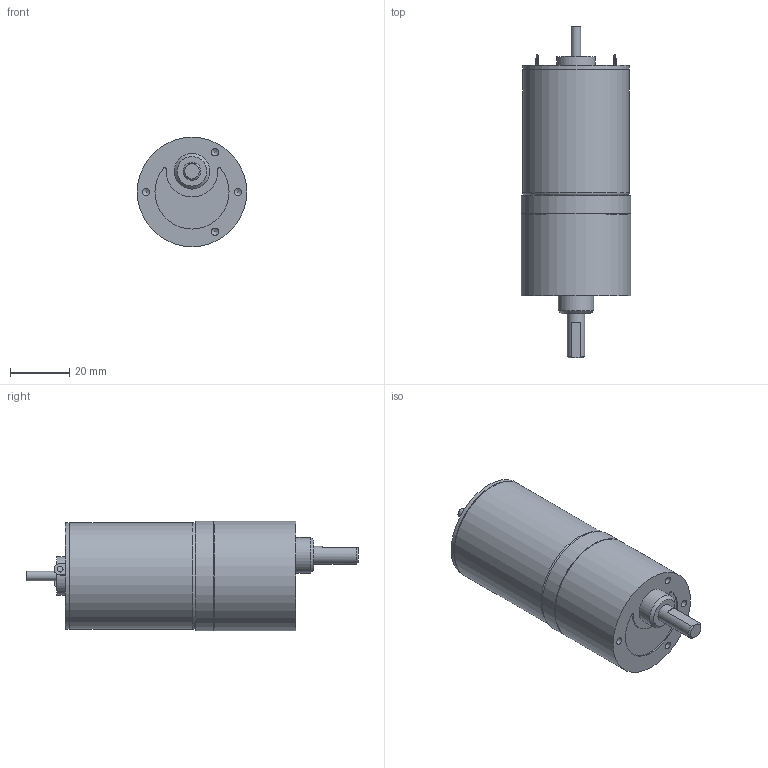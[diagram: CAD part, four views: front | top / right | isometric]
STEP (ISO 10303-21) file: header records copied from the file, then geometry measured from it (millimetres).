
FILE_DESCRIPTION((''),'2;1');
FILE_NAME('C:\Documents and Settings\SSEGAWA\デスクトップ\TP-3644L-HM-6.STP','2013-07-26T17:11:30',('SSEGAWA'),(''),'Autodesk Inventor 2010','Autodesk Inventor 2010','');
FILE_SCHEMA(('CONFIG_CONTROL_DESIGN'));
Length unit declared in the file: millimetre
Products named in the file (1): tp_3644l_hm_6_Shrinkwrap_1
Bounding box: 37 x 112.1 x 37 mm (x, y, z)
Volume: 82380.3 mm3; surface area: 12333.3 mm2
Topology: 1 solids, 4 shells, 65 faces, 140 edges, 94 vertices
Faces by surface type: plane 27, cylinder 18, bspline 16, torus 2, cone 2
Full cylindrical faces by diameter (mm): 3 x1, 3.175 x1, 3.5 x1, 6 x1, 12 x1, 13 x1, 35.6 x1, 36 x2, 36.6 x1, 37 x2
Entity records: 1751 total; most frequent: CARTESIAN_POINT 503, DIRECTION 245, ORIENTED_EDGE 176, EDGE_LOOP 111, AXIS2_PLACEMENT_3D 109, EDGE_CURVE 88, VERTEX_POINT 73, STYLED_ITEM 66
